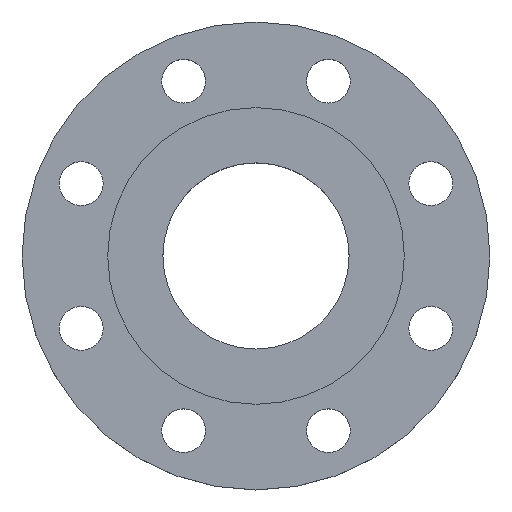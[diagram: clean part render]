
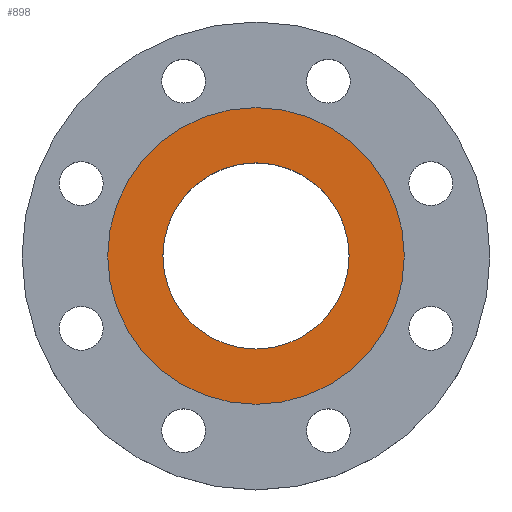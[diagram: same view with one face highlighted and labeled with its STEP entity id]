
A CAD part, top view. The second image highlights one B-rep face of the part: STEP entity #898.
In plain terms, the highlighted planar face has unit normal (0, 0, 1).
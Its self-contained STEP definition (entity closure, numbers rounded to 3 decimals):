
#19 = AXIS2_PLACEMENT_3D ( 'NONE', #174, #171, #169 ) ;
#107 = CARTESIAN_POINT ( 'NONE',  ( -74.5, 0., 0. ) ) ;
#132 = DIRECTION ( 'NONE',  ( -1., 0., 0. ) ) ;
#133 = DIRECTION ( 'NONE',  ( 0., 0., -1. ) ) ;
#134 = CARTESIAN_POINT ( 'NONE',  ( 0., 0., 0. ) ) ;
#169 = DIRECTION ( 'NONE',  ( 1., 0., 0. ) ) ;
#171 = DIRECTION ( 'NONE',  ( 0., 0., 1. ) ) ;
#173 = AXIS2_PLACEMENT_3D ( 'NONE', #450, #451, #448 ) ;
#174 = CARTESIAN_POINT ( 'NONE',  ( 0., 0., 0. ) ) ;
#175 = PLANE ( 'NONE',  #19 ) ;
#176 = FACE_OUTER_BOUND ( 'NONE', #984, .T. ) ;
#177 = FACE_BOUND ( 'NONE', #999, .T. ) ;
#237 = EDGE_CURVE ( 'NONE', #579, #563, #549, .T. ) ;
#375 = AXIS2_PLACEMENT_3D ( 'NONE', #134, #133, #132 ) ;
#377 = EDGE_CURVE ( 'NONE', #1000, #590, #494, .T. ) ;
#402 = CARTESIAN_POINT ( 'NONE',  ( 74.5, 0., 0. ) ) ;
#412 = CARTESIAN_POINT ( 'NONE',  ( 46.753, 0., 0. ) ) ;
#439 = CARTESIAN_POINT ( 'NONE',  ( -46.753, 0., 0. ) ) ;
#448 = DIRECTION ( 'NONE',  ( 1., 0., 0. ) ) ;
#450 = CARTESIAN_POINT ( 'NONE',  ( 0., 0., 0. ) ) ;
#451 = DIRECTION ( 'NONE',  ( 0., 0., 1. ) ) ;
#473 = CIRCLE ( 'NONE', #375, 74.5 ) ;
#494 = CIRCLE ( 'NONE', #497, 74.5 ) ;
#497 = AXIS2_PLACEMENT_3D ( 'NONE', #736, #737, #738 ) ;
#547 = AXIS2_PLACEMENT_3D ( 'NONE', #682, #683, #685 ) ;
#549 = CIRCLE ( 'NONE', #547, 46.753 ) ;
#555 = EDGE_CURVE ( 'NONE', #563, #579, #702, .T. ) ;
#563 = VERTEX_POINT ( 'NONE', #439 ) ;
#579 = VERTEX_POINT ( 'NONE', #412 ) ;
#590 = VERTEX_POINT ( 'NONE', #402 ) ;
#682 = CARTESIAN_POINT ( 'NONE',  ( 0., 0., 0. ) ) ;
#683 = DIRECTION ( 'NONE',  ( 0., 0., 1. ) ) ;
#685 = DIRECTION ( 'NONE',  ( 1., 0., 0. ) ) ;
#702 = CIRCLE ( 'NONE', #173, 46.753 ) ;
#736 = CARTESIAN_POINT ( 'NONE',  ( 0., 0., 0. ) ) ;
#737 = DIRECTION ( 'NONE',  ( 0., 0., -1. ) ) ;
#738 = DIRECTION ( 'NONE',  ( -1., 0., 0. ) ) ;
#774 = ORIENTED_EDGE ( 'NONE', *, *, #237, .F. ) ;
#804 = ORIENTED_EDGE ( 'NONE', *, *, #555, .F. ) ;
#898 = ADVANCED_FACE ( 'NONE', ( #177, #176 ), #175, .T. ) ;
#930 = ORIENTED_EDGE ( 'NONE', *, *, #377, .F. ) ;
#931 = ORIENTED_EDGE ( 'NONE', *, *, #950, .F. ) ;
#950 = EDGE_CURVE ( 'NONE', #590, #1000, #473, .T. ) ;
#984 = EDGE_LOOP ( 'NONE', ( #930, #931 ) ) ;
#999 = EDGE_LOOP ( 'NONE', ( #774, #804 ) ) ;
#1000 = VERTEX_POINT ( 'NONE', #107 ) ;
